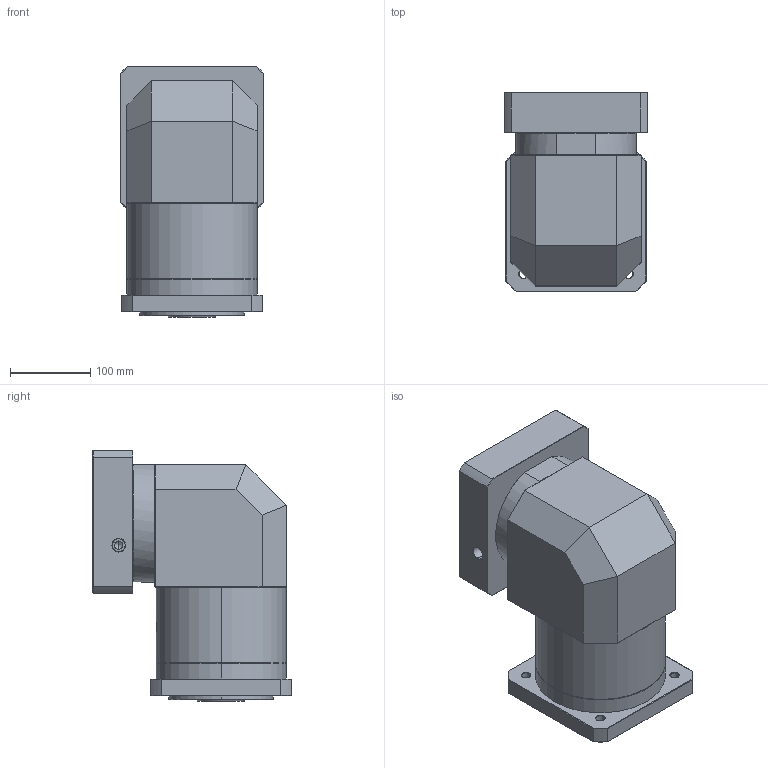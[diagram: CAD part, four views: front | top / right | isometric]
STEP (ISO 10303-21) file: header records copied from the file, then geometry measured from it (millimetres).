
FILE_DESCRIPTION (( 'STEP AP214' ), '1' );
FILE_NAME ('ZFR160A-K35-L2-P2-35-150-200-M12.step', '2023-09-03T09:02:37', ( '' ), ( '' ), 'SwSTEP 2.0', 'SolidWorks 2016', '' );
FILE_SCHEMA (( 'AUTOMOTIVE_DESIGN' ));
Length unit declared in the file: millimetre
Products named in the file (1): ZFR160A-K35-L2-P2-35-150-200-M12
Bounding box: 178 x 247.5 x 312.7 mm (x, y, z)
Volume: 7690640.6 mm3; surface area: 482067.5 mm2
Topology: 6 solids, 6 shells, 2131 faces, 5638 edges, 3614 vertices
Faces by surface type: plane 1039, bspline 403, cylinder 367, cone 302, torus 20
Entity records: 118150 total; most frequent: CARTESIAN_POINT 46982, ORIENTED_EDGE 11220, DIRECTION 8141, EDGE_CURVE 5610, VERTEX_POINT 3614, VECTOR 3025, LINE 3025, AXIS2_PLACEMENT_3D 2558
